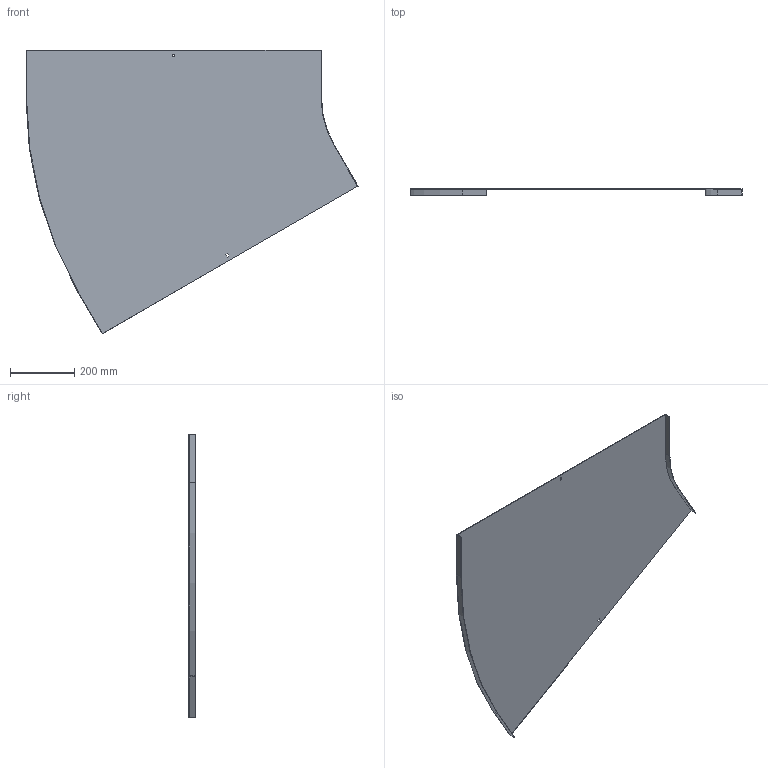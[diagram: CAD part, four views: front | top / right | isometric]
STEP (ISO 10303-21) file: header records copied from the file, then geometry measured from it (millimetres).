
FILE_DESCRIPTION (( 'STEP AP214' ), '1' );
FILE_NAME ('12N3P900.step', '2025-02-21T13:34:13', ( '' ), ( '' ), 'SwSTEP 2.0', 'SolidWorks 2023', '' );
FILE_SCHEMA (( 'AUTOMOTIVE_DESIGN' ));
Length unit declared in the file: millimetre
Products named in the file (1): 12N3P900
Bounding box: 1036.65 x 20 x 885.65 mm (x, y, z)
Volume: 997311.2 mm3; surface area: 1334799.3 mm2
Topology: 1 solids, 1 shells, 26 faces, 72 edges, 48 vertices
Faces by surface type: plane 22, cylinder 4
Entity records: 855 total; most frequent: CARTESIAN_POINT 147, ORIENTED_EDGE 144, DIRECTION 134, EDGE_CURVE 72, VECTOR 64, LINE 64, VERTEX_POINT 48, AXIS2_PLACEMENT_3D 35
